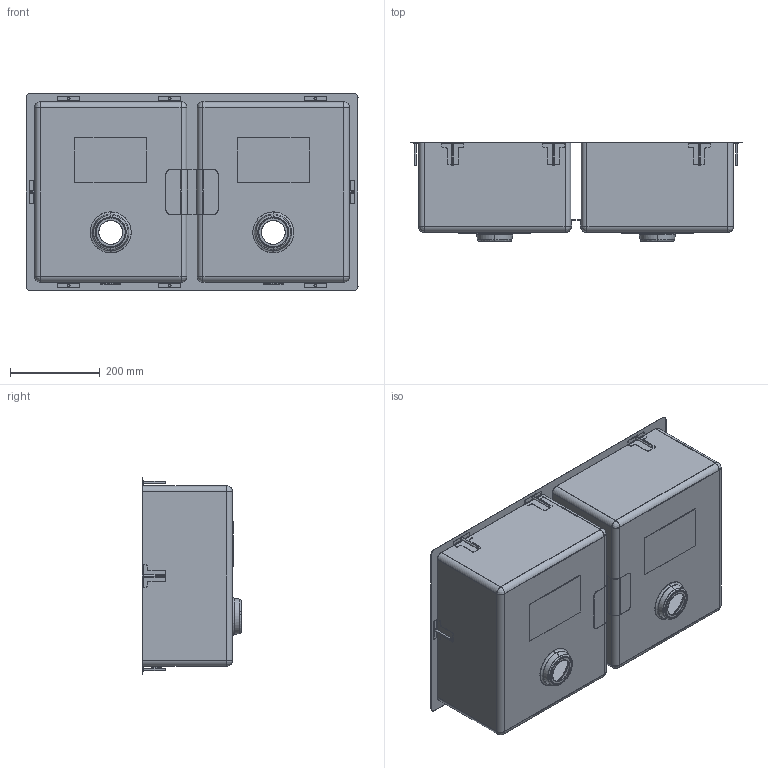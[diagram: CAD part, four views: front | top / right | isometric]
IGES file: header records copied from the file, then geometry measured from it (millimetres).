
Start section: SolidWorks IGES file using analytic representation for surfaces
Global section: file name: C:\Users\Davide\Desktop\SMEG 3D MATRA MIX\Matra 74x44 2v.IGS; native system: SolidWorks 2020; preprocessor: SolidWorks 2020; author: davide; date: 210127.165323; units: millimetre
Bounding box: 740 x 221.9 x 440 mm (x, y, z)
Surface area: 1931617.4 mm2 (no closed solid volume)
Topology: 0 solids, 0 shells, 542 faces, 7128 edges, 7124 vertices
Faces by surface type: bspline 300, revolution 242
